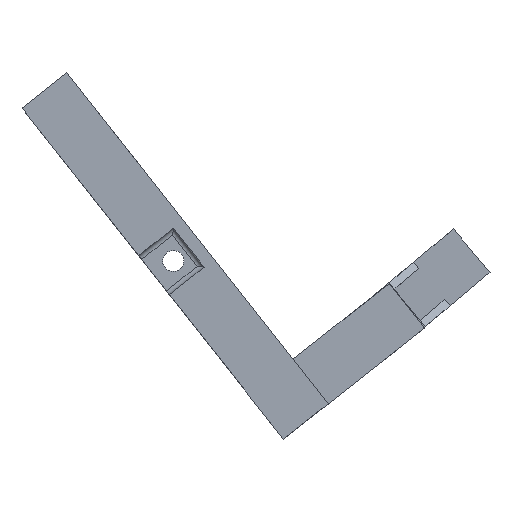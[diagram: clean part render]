
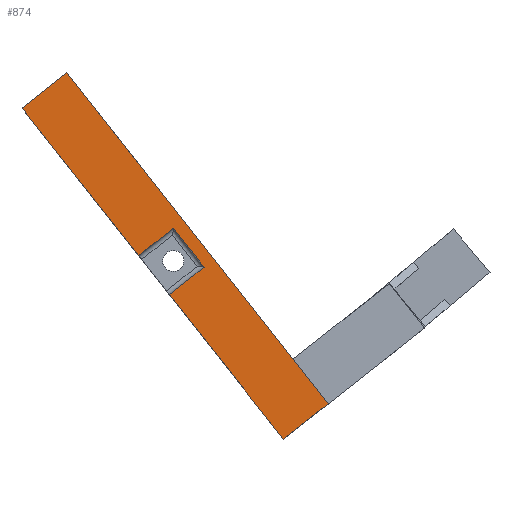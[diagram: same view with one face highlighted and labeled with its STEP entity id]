
A CAD part, top view. The second image highlights one B-rep face of the part: STEP entity #874.
In plain terms, the highlighted planar face has unit normal (0, 0, 1).
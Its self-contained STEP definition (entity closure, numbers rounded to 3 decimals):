
#838=AXIS2_PLACEMENT_3D('Plane Axis2P3D',#835,#836,#837) ;
#401=CARTESIAN_POINT('Vertex',(-475.664,-734.159,768.282)) ;
#404=CARTESIAN_POINT('Line Origine',(-489.399,-745.003,768.282)) ;
#408=CARTESIAN_POINT('Vertex',(-503.134,-755.847,768.282)) ;
#445=CARTESIAN_POINT('Line Origine',(-538.29,-711.317,768.282)) ;
#449=CARTESIAN_POINT('Vertex',(-573.445,-666.786,768.282)) ;
#484=CARTESIAN_POINT('Vertex',(-592.404,-642.773,768.282)) ;
#487=CARTESIAN_POINT('Line Origine',(-628.323,-597.275,768.282)) ;
#491=CARTESIAN_POINT('Vertex',(-664.242,-551.777,768.282)) ;
#818=CARTESIAN_POINT('Vertex',(-636.771,-530.09,768.282)) ;
#821=CARTESIAN_POINT('Line Origine',(-556.217,-632.125,768.282)) ;
#835=CARTESIAN_POINT('Axis2P3D Location',(0.,0.,768.282)) ;
#840=CARTESIAN_POINT('Line Origine',(-650.507,-540.934,768.282)) ;
#845=CARTESIAN_POINT('Line Origine',(-581.677,-634.304,768.282)) ;
#849=CARTESIAN_POINT('Vertex',(-570.951,-625.836,768.282)) ;
#852=CARTESIAN_POINT('Line Origine',(-561.472,-637.843,768.282)) ;
#856=CARTESIAN_POINT('Vertex',(-551.993,-649.85,768.282)) ;
#859=CARTESIAN_POINT('Line Origine',(-562.719,-658.318,768.282)) ;
#405=DIRECTION('Vector Direction',(0.785,0.62,0.)) ;
#446=DIRECTION('Vector Direction',(0.62,-0.785,0.)) ;
#488=DIRECTION('Vector Direction',(0.62,-0.785,0.)) ;
#822=DIRECTION('Vector Direction',(-0.62,0.785,0.)) ;
#836=DIRECTION('Axis2P3D Direction',(0.,0.,1.)) ;
#837=DIRECTION('Axis2P3D XDirection',(1.,0.,0.)) ;
#841=DIRECTION('Vector Direction',(-0.785,-0.62,0.)) ;
#846=DIRECTION('Vector Direction',(0.785,0.62,0.)) ;
#853=DIRECTION('Vector Direction',(-0.62,0.785,0.)) ;
#860=DIRECTION('Vector Direction',(-0.785,-0.62,0.)) ;
#406=VECTOR('Line Direction',#405,1.) ;
#447=VECTOR('Line Direction',#446,1.) ;
#489=VECTOR('Line Direction',#488,1.) ;
#823=VECTOR('Line Direction',#822,1.) ;
#842=VECTOR('Line Direction',#841,1.) ;
#847=VECTOR('Line Direction',#846,1.) ;
#854=VECTOR('Line Direction',#853,1.) ;
#861=VECTOR('Line Direction',#860,1.) ;
#865=ORIENTED_EDGE('',*,*,#451,.T.) ;
#866=ORIENTED_EDGE('',*,*,#410,.T.) ;
#867=ORIENTED_EDGE('',*,*,#825,.T.) ;
#868=ORIENTED_EDGE('',*,*,#844,.T.) ;
#869=ORIENTED_EDGE('',*,*,#493,.T.) ;
#870=ORIENTED_EDGE('',*,*,#851,.F.) ;
#871=ORIENTED_EDGE('',*,*,#858,.F.) ;
#872=ORIENTED_EDGE('',*,*,#863,.F.) ;
#874=ADVANCED_FACE('Result of Part1.2\\PartBody',(#873),#839,.T.) ;
#410=EDGE_CURVE('',#409,#402,#407,.T.) ;
#451=EDGE_CURVE('',#450,#409,#448,.T.) ;
#493=EDGE_CURVE('',#492,#485,#490,.T.) ;
#825=EDGE_CURVE('',#402,#819,#824,.T.) ;
#844=EDGE_CURVE('',#819,#492,#843,.T.) ;
#851=EDGE_CURVE('',#850,#485,#848,.F.) ;
#858=EDGE_CURVE('',#857,#850,#855,.T.) ;
#863=EDGE_CURVE('',#450,#857,#862,.F.) ;
#864=EDGE_LOOP('',(#865,#866,#867,#868,#869,#870,#871,#872)) ;
#873=FACE_OUTER_BOUND('',#864,.T.) ;
#407=LINE('Line',#404,#406) ;
#448=LINE('Line',#445,#447) ;
#490=LINE('Line',#487,#489) ;
#824=LINE('Line',#821,#823) ;
#843=LINE('Line',#840,#842) ;
#848=LINE('Line',#845,#847) ;
#855=LINE('Line',#852,#854) ;
#862=LINE('Line',#859,#861) ;
#839=PLANE('',#838) ;
#402=VERTEX_POINT('',#401) ;
#409=VERTEX_POINT('',#408) ;
#450=VERTEX_POINT('',#449) ;
#485=VERTEX_POINT('',#484) ;
#492=VERTEX_POINT('',#491) ;
#819=VERTEX_POINT('',#818) ;
#850=VERTEX_POINT('',#849) ;
#857=VERTEX_POINT('',#856) ;
